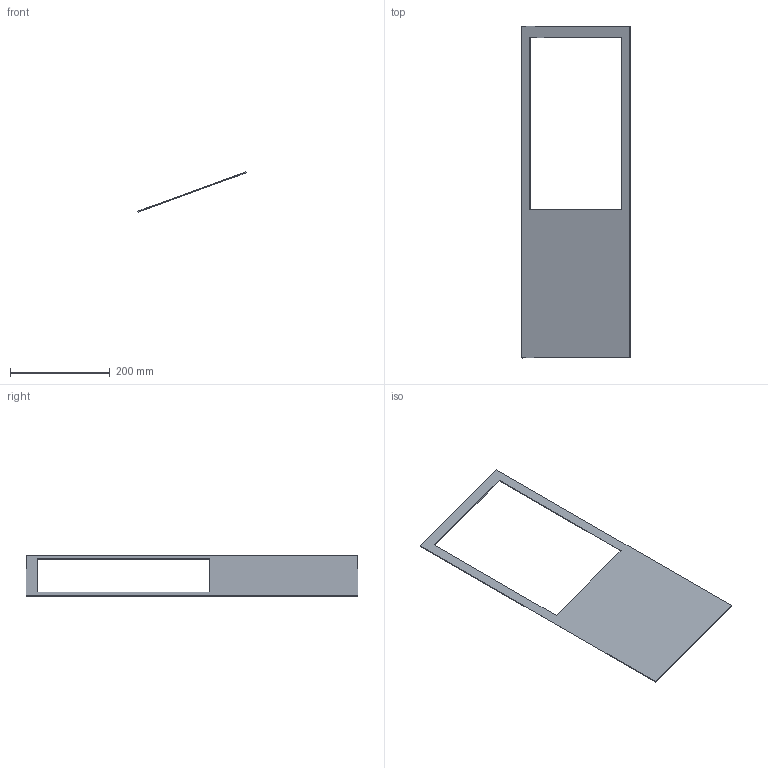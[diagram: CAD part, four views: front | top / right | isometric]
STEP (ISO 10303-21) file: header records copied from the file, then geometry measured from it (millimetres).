
FILE_DESCRIPTION(/* description */ (''),/* implementation_level */ '2;1');
FILE_NAME(/* name */ 'cmdmx-schermplaat.step',/* time_stamp */ '2026-11-13T14:05:41+01:00',/* author */ (''),/* organization */ (''),/* preprocessor_version */ 'ST-DEVELOPER v20.2',/* originating_system */ 'Autodesk Translation Framework v15.17.0.0',/* authorisation */ '');
FILE_SCHEMA (('AUTOMOTIVE_DESIGN { 1 0 10303 214 3 1 1 }'));
Length unit declared in the file: millimetre
Products named in the file (1): 2026-11-13-14-05-41-445
Bounding box: 216.81 x 666 x 80.54 mm (x, y, z)
Volume: 170728 mm3; surface area: 176480 mm2
Topology: 1 solids, 1 shells, 10 faces, 24 edges, 16 vertices
Faces by surface type: plane 10
Entity records: 332 total; most frequent: CARTESIAN_POINT 51, ORIENTED_EDGE 48, DIRECTION 46, LINE 24, VECTOR 24, EDGE_CURVE 24, VERTEX_POINT 16, EDGE_LOOP 12
